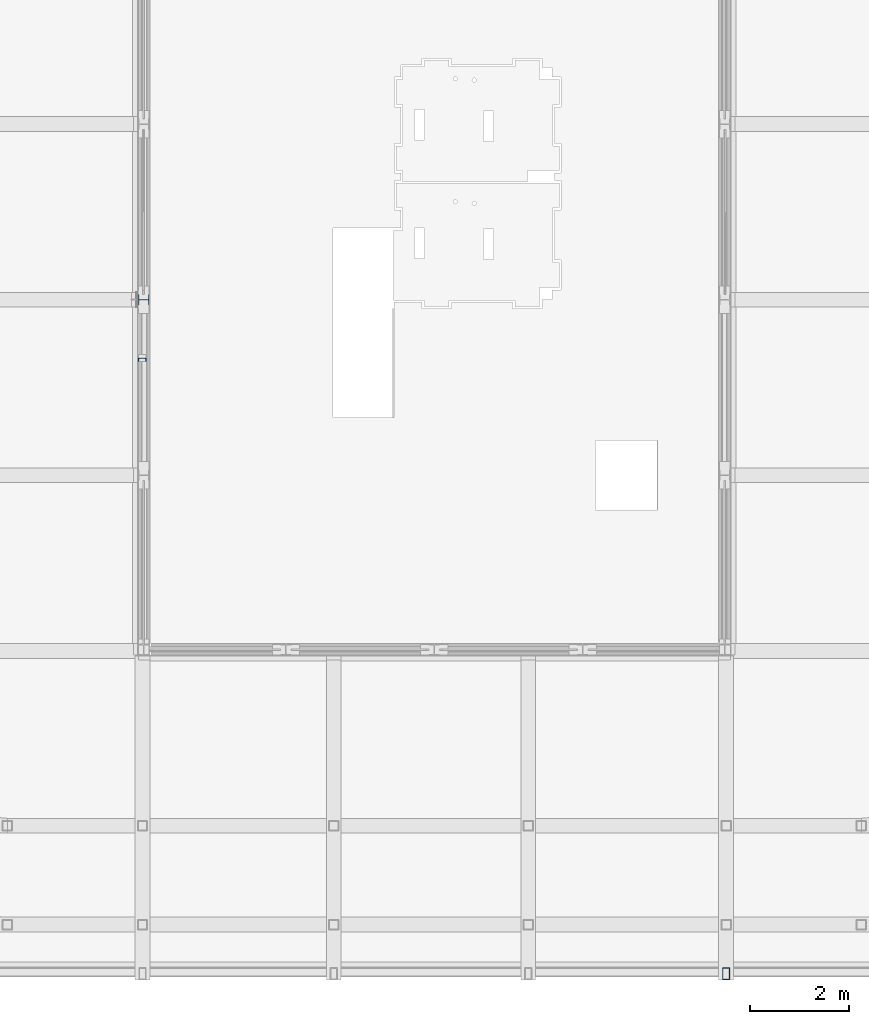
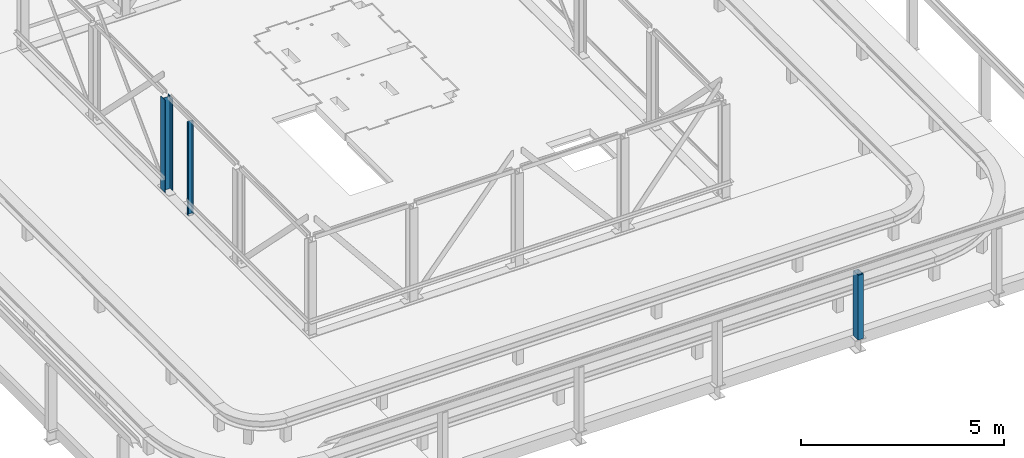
# One storey, part 2 of 27: 3 columns.
"""IFC2X3 building model written with IfcOpenShell, lengths in millimetres."""

import ifcopenshell
import ifcopenshell.guid

model = None  # the IFC model being written
_history = None  # IfcOwnerHistory: only IFC2X3 demands one
_inside = {}  # id of a spatial element -> (the spatial element, [elements in it])
_under = {}  # id of a project, library or spatial element -> (it, [spatial elements below it])
_declared = {}  # id of a project -> (the project, [libraries it declares])
_typed = {}  # id of a type object -> (the type object, [elements of that type])
_made_of = {}  # id of a material, layer set ... -> (it, [elements and type objects made of it])


def new_model(schema):
    """Start an empty IFC model of exactly this schema.

    Asked for "IFC4X3", IfcOpenShell would pick the latest addendum, in which some entities
    have other attributes; the version numbers below select the first issue.
    IFC2X3 requires an IfcOwnerHistory on every rooted entity: one is made here for all.
    """
    global model, _history
    if schema == "IFC4X3":
        model = ifcopenshell.file(schema_version=(4, 3, 0, 0))
    else:
        model = ifcopenshell.file(schema=schema)
    _inside.clear()
    _under.clear()
    _declared.clear()
    _typed.clear()
    _made_of.clear()
    _history = None
    if model.schema == "IFC2X3":
        org = make("IfcOrganization", Name="unknown")
        user = make(
            "IfcPersonAndOrganization",
            ThePerson=make("IfcPerson", FamilyName="unknown"),
            TheOrganization=org,
        )
        app = make(
            "IfcApplication",
            ApplicationDeveloper=org,
            Version="unknown",
            ApplicationFullName="unknown",
            ApplicationIdentifier="unknown",
        )
        _history = make(
            "IfcOwnerHistory",
            OwningUser=user,
            OwningApplication=app,
            ChangeAction="ADDED",
            CreationDate=0,
        )
    return model


def make(cls, **values):
    """One entity of the class cls with the attributes given. An attribute that is None is left unset."""
    return model.create_entity(
        cls, **{name: value for name, value in values.items() if value is not None}
    )


def entity(cls, *values):
    """Any entity or typed value of the class cls, its attributes in the order of the schema. None: left unset."""
    e = model.create_entity(cls)
    for i, value in enumerate(values):
        if value is not None:
            e[i] = value
    return e


def rooted(cls, **values):
    """An entity with a GlobalId (a new one), such as an element, a storey or a relation."""
    return make(cls, GlobalId=ifcopenshell.guid.new(), OwnerHistory=_history, **values)


def si_unit(unit_type, name, prefix=None):
    """IfcSIUnit, for example si_unit("LENGTHUNIT", "METRE", prefix="MILLI")."""
    return make("IfcSIUnit", UnitType=unit_type, Prefix=prefix, Name=name)


def converted_unit(unit_type, name, factor, base, dimensions=None, offset=None):
    """IfcConversionBasedUnit, such as the inch: factor (a typed value) times the base unit."""
    return make(
        "IfcConversionBasedUnit"
        if offset is None
        else "IfcConversionBasedUnitWithOffset",
        ConversionOffset=offset,
        Dimensions=None
        if dimensions is None
        else entity("IfcDimensionalExponents", *dimensions),
        UnitType=unit_type,
        Name=name,
        ConversionFactor=make(
            "IfcMeasureWithUnit", ValueComponent=factor, UnitComponent=base
        ),
    )


def derived_unit(unit_type, elements):
    """IfcDerivedUnit: a product of units, each with its exponent."""
    return make(
        "IfcDerivedUnit",
        Elements=[
            make("IfcDerivedUnitElement", Unit=unit, Exponent=power)
            for unit, power in elements
        ],
        UnitType=unit_type,
    )


def assignment(units):
    """IfcUnitAssignment: the units of a project."""
    return None if units is None else make("IfcUnitAssignment", Units=units)


def point(xyz):
    """IfcCartesianPoint."""
    return None if xyz is None else make("IfcCartesianPoint", Coordinates=xyz)


def direction(xyz):
    """IfcDirection."""
    return None if xyz is None else make("IfcDirection", DirectionRatios=xyz)


def frame(location, z_axis=None, x_axis=None):
    """IfcAxis2Placement3D, a coordinate frame: its origin and axes. An axis left out is left unset."""
    return make(
        "IfcAxis2Placement3D",
        Location=point(location),
        Axis=direction(z_axis),
        RefDirection=direction(x_axis),
    )


def frame_2d(location, x_axis=None):
    """IfcAxis2Placement2D, a coordinate frame in the plane: its origin and x axis."""
    return make(
        "IfcAxis2Placement2D", Location=point(location), RefDirection=direction(x_axis)
    )


def origin():
    """The frame at (0, 0, 0) with its axes left unset."""
    return frame((0.0, 0.0, 0.0))


def place(relative_to, where):
    """IfcLocalPlacement: puts the frame where relative to a parent placement (None: the world)."""
    return make(
        "IfcLocalPlacement", PlacementRelTo=relative_to, RelativePlacement=where
    )


def context(
    kind, dimensions, precision=None, world=None, true_north=None, identifier=None
):
    """IfcGeometricRepresentationContext, for example the 3D "Model" context."""
    return make(
        "IfcGeometricRepresentationContext",
        ContextIdentifier=identifier,
        ContextType=kind,
        CoordinateSpaceDimension=dimensions,
        Precision=precision,
        WorldCoordinateSystem=world,
        TrueNorth=true_north,
    )


def subcontext(parent, identifier, kind, view, scale=None):
    """IfcGeometricRepresentationSubContext, for example "Body" below "Model"."""
    return make(
        "IfcGeometricRepresentationSubContext",
        ContextIdentifier=identifier,
        ContextType=kind,
        ParentContext=parent,
        TargetScale=scale,
        TargetView=view,
    )


def project(units=None, contexts=None):
    """IfcProject with its units and contexts."""
    return rooted(
        "IfcProject",
        Name="project",
        RepresentationContexts=contexts,
        UnitsInContext=assignment(units),
    )


def spatial(cls, under=None, at=None, **own):
    """A site, building, storey or space (cls), placed at a placement, below another one or the project."""
    s = rooted(cls, ObjectPlacement=at, **own)
    if under is not None:
        _under.setdefault(under.id(), (under, []))[1].append(s)
    return s


def polyline(points):
    """IfcPolyline through the points."""
    return make("IfcPolyline", Points=[point(p) for p in points])


def circle_curve(where, radius):
    """IfcCircle in the frame where."""
    return make("IfcCircle", Position=where, Radius=radius)


def parameter(value):
    """IfcParameterValue: where a trimmed curve begins or ends, as a parameter of its basis curve."""
    return model.create_entity("IfcParameterValue", value)


def trimmed(basis, trim1, trim2, sense, master):
    """IfcTrimmedCurve: the piece of a basis curve between two trims."""
    return make(
        "IfcTrimmedCurve",
        BasisCurve=basis,
        Trim1=trim1,
        Trim2=trim2,
        SenseAgreement=sense,
        MasterRepresentation=master,
    )


def segment(curve, same_sense, transition):
    """IfcCompositeCurveSegment."""
    return make(
        "IfcCompositeCurveSegment",
        Transition=transition,
        SameSense=same_sense,
        ParentCurve=curve,
    )


def composite_curve(segments, self_intersect=None):
    """IfcCompositeCurve: segments joined end to end."""
    return make("IfcCompositeCurve", Segments=segments, SelfIntersect=self_intersect)


def profile(cls, at=None, kind="AREA", **sizes):
    """A parametric profile (cls). Its sizes go by their IFC names, for example OverallWidth=200.0."""
    return make(cls, ProfileType=kind, Position=at, **sizes)


def i_section(**sizes):
    """IfcIShapeProfileDef."""
    return profile("IfcIShapeProfileDef", **sizes)


def outline(outer, holes=None, kind="AREA"):
    """IfcArbitraryClosedProfileDef: a profile drawn as a closed curve; with holes, ...WithVoids."""
    if holes is None:
        return make("IfcArbitraryClosedProfileDef", ProfileType=kind, OuterCurve=outer)
    return make(
        "IfcArbitraryProfileDefWithVoids",
        ProfileType=kind,
        OuterCurve=outer,
        InnerCurves=holes,
    )


def extrude(swept, where, along, depth):
    """IfcExtrudedAreaSolid: the profile swept, set in the frame where, extruded along a direction by depth."""
    return make(
        "IfcExtrudedAreaSolid",
        SweptArea=swept,
        Position=where,
        ExtrudedDirection=direction(along),
        Depth=depth,
    )


def shape(context_of_items, identifier, shape_type, items):
    """IfcShapeRepresentation: the items that make up one representation, for example the "Body"."""
    return make(
        "IfcShapeRepresentation",
        ContextOfItems=context_of_items,
        RepresentationIdentifier=identifier,
        RepresentationType=shape_type,
        Items=items,
    )


def source(mapping_origin, context_of_items, identifier, shape_type, items):
    """IfcRepresentationMap: a shape defined once, which mapped items show again and again."""
    return make(
        "IfcRepresentationMap",
        MappingOrigin=mapping_origin,
        MappedRepresentation=shape(context_of_items, identifier, shape_type, items),
    )


def transform(
    local_origin,
    x_axis=None,
    y_axis=None,
    z_axis=None,
    scale=None,
    scale2=None,
    scale3=None,
    uniform=True,
):
    """IfcCartesianTransformationOperator3D, or its non-uniform kind. x_axis, y_axis, z_axis: its Axis1, 2, 3."""
    if uniform:
        return make(
            "IfcCartesianTransformationOperator3D",
            Axis1=direction(x_axis),
            Axis2=direction(y_axis),
            LocalOrigin=point(local_origin),
            Scale=scale,
            Axis3=direction(z_axis),
        )
    return make(
        "IfcCartesianTransformationOperator3DnonUniform",
        Axis1=direction(x_axis),
        Axis2=direction(y_axis),
        LocalOrigin=point(local_origin),
        Scale=scale,
        Axis3=direction(z_axis),
        Scale2=scale2,
        Scale3=scale3,
    )


def mapped(mapping_source, mapping_target):
    """IfcMappedItem: shows the shape of a source again, moved by a transform."""
    return make(
        "IfcMappedItem", MappingSource=mapping_source, MappingTarget=mapping_target
    )


def material(Name=None, Category=None):
    """IfcMaterial."""
    return make("IfcMaterial", Name=Name, Category=Category)


def made_of(thing, what):
    """Note that an element or type object is made of a material, layer set ...; save() writes the relation."""
    if what is not None:
        _made_of.setdefault(what.id(), (what, []))[1].append(thing)
    return thing


def type_object(cls, material=None, **own):
    """A type object (cls), such as IfcWallType, which elements share."""
    return made_of(rooted(cls, **own), material)


def type_shapes(of_type, sources):
    """Give a type object the sources (RepresentationMaps) that its elements show as mapped items."""
    of_type.RepresentationMaps = sources


def element(
    cls,
    number,
    at=None,
    inside=None,
    cuts=None,
    type_object=None,
    material=None,
    context=None,
    identifier="Body",
    shape_type=None,
    held_by="IfcProductDefinitionShape",
    body=None,
    shapes=None,
    **own,
):
    """One element of the class cls, such as IfcWall. Its Tag is "e" and its number.

    at: its placement. inside: the storey or other place that contains it. cuts: it is an
    opening in that element (IfcRelVoidsElement). A single representation is given by context,
    identifier, shape_type and body (its items); several are given by shapes. held_by: the class
    of the entity that holds the representations. save() writes the other relations.
    """
    e = rooted(cls, Tag="e%d" % number, ObjectPlacement=at, **own)
    if body is not None:
        shapes = [shape(context, identifier, shape_type, body)]
    if shapes is not None:
        e.Representation = make(held_by, Representations=shapes)
    if inside is not None:
        _inside.setdefault(inside.id(), (inside, []))[1].append(e)
    if cuts is not None:
        rooted(
            "IfcRelVoidsElement", RelatingBuildingElement=cuts, RelatedOpeningElement=e
        )
    if type_object is not None:
        _typed.setdefault(type_object.id(), (type_object, []))[1].append(e)
    return made_of(e, material)


def aggregate(whole, parts):
    """IfcRelAggregates: a whole, such as a stair, and the parts it consists of."""
    return rooted("IfcRelAggregates", RelatingObject=whole, RelatedObjects=parts)


def save(model, path):
    """Write the relations noted so far, then the file.

    IfcRelAggregates (storeys below a building ...), IfcRelContainedInSpatialStructure (elements
    in a storey), IfcRelDefinesByType, IfcRelAssociatesMaterial and IfcRelDeclares: one each for
    every whole, place, type object, material and project.
    """
    for whole, parts in _under.values():
        aggregate(whole, parts)
    for where, things in _inside.values():
        rooted(
            "IfcRelContainedInSpatialStructure",
            RelatedElements=things,
            RelatingStructure=where,
        )
    for kind, things in _typed.values():
        rooted("IfcRelDefinesByType", RelatedObjects=things, RelatingType=kind)
    for what, things in _made_of.values():
        rooted("IfcRelAssociatesMaterial", RelatedObjects=things, RelatingMaterial=what)
    for by, libraries in _declared.values():
        rooted("IfcRelDeclares", RelatingContext=by, RelatedDefinitions=libraries)
    model.write(path)


model = new_model("IFC2X3")

# Units and contexts
model_context = context("Model", 3, precision=0.01, world=origin(), true_north=direction((6.12303176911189e-17, 1.0)))
body_context = subcontext(model_context, "Body", "Model", "MODEL_VIEW")
ifc_project = project(units=[si_unit("LENGTHUNIT", "METRE", prefix="MILLI"), si_unit("AREAUNIT", "SQUARE_METRE"), si_unit("VOLUMEUNIT", "CUBIC_METRE"), converted_unit("PLANEANGLEUNIT", "DEGREE", entity("IfcRatioMeasure", 0.0174532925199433), si_unit("PLANEANGLEUNIT", "RADIAN"), dimensions=[0, 0, 0, 0, 0, 0, 0]), si_unit("MASSUNIT", "GRAM", prefix="KILO"), derived_unit("MASSDENSITYUNIT", [(si_unit("MASSUNIT", "GRAM", prefix="KILO"), 1), (si_unit("LENGTHUNIT", "METRE"), -3)]), si_unit("TIMEUNIT", "SECOND"), si_unit("FREQUENCYUNIT", "HERTZ"), si_unit("THERMODYNAMICTEMPERATUREUNIT", "DEGREE_CELSIUS"), derived_unit("THERMALTRANSMITTANCEUNIT", [(si_unit("MASSUNIT", "GRAM", prefix="KILO"), 1), (si_unit("THERMODYNAMICTEMPERATUREUNIT", "KELVIN"), -1), (si_unit("TIMEUNIT", "SECOND"), -3)]), derived_unit("VOLUMETRICFLOWRATEUNIT", [(si_unit("LENGTHUNIT", "METRE"), 3), (si_unit("TIMEUNIT", "SECOND"), -1)]), si_unit("ELECTRICCURRENTUNIT", "AMPERE"), si_unit("ELECTRICVOLTAGEUNIT", "VOLT"), si_unit("POWERUNIT", "WATT"), si_unit("FORCEUNIT", "NEWTON", prefix="KILO"), si_unit("ILLUMINANCEUNIT", "LUX"), si_unit("LUMINOUSFLUXUNIT", "LUMEN"), si_unit("LUMINOUSINTENSITYUNIT", "CANDELA"), derived_unit("USERDEFINED", [(si_unit("MASSUNIT", "GRAM", prefix="KILO"), -1), (si_unit("LENGTHUNIT", "METRE"), -2), (si_unit("TIMEUNIT", "SECOND"), 3), (si_unit("LUMINOUSFLUXUNIT", "LUMEN"), 1)]), derived_unit("LINEARVELOCITYUNIT", [(si_unit("LENGTHUNIT", "METRE"), 1), (si_unit("TIMEUNIT", "SECOND"), -1)]), si_unit("PRESSUREUNIT", "PASCAL"), derived_unit("USERDEFINED", [(si_unit("LENGTHUNIT", "METRE"), -2), (si_unit("MASSUNIT", "GRAM", prefix="KILO"), 1), (si_unit("TIMEUNIT", "SECOND"), -2)])], contexts=[model_context])

# Site, building, storey
site_placement = place(None, origin())
site = spatial("IfcSite", under=ifc_project, at=site_placement, Name="Default", CompositionType="ELEMENT")
building_placement = place(site_placement, origin())
building = spatial("IfcBuilding", under=site, at=building_placement, Name="niet gebruiken", CompositionType="ELEMENT")
storey_placement = place(building_placement, frame((0.0, 0.0, 187640.0)))
storey = spatial("IfcBuildingStorey", under=building, at=storey_placement, Name="59 negenenvijftigste verdieping", CompositionType="ELEMENT", Elevation=187640.0)

# Columns
ifc_material = material(Name="NLRS_h2_staal")
column_type_1 = type_object("IfcColumnType", Name="kolom HEB 220", PredefinedType="COLUMN", material=ifc_material)
shared_shape_1 = source(origin(), body_context, "Body", "SweptSolid", [
    extrude(i_section(OverallWidth=220.0, OverallDepth=219.999999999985, WebThickness=9.50000000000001, FlangeThickness=15.9999999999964, FilletRadius=17.9999999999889, at=frame_2d((2.16715534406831e-12, 0.0), x_axis=(1.0, 0.0))), frame((135875.0, 17500.0, 187635.0), z_axis=(0.0, 0.0, 1.0), x_axis=(0.0, -1.0, 0.0)), (0.0, 0.0, 1.0), 2775.00000000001),
])
type_shapes(column_type_1, [shared_shape_1])
column_1_placement = place(storey_placement, frame((0.0, 0.0, -187640.0)))
element("IfcColumn", 1, at=column_1_placement, inside=storey, type_object=column_type_1, material=ifc_material, Name="NLRS_28.11_SCO_TLB_stalen kolom HEB_gen:kolom HEB 220", ObjectType="kolom HEB 220", context=body_context, shape_type="MappedRepresentation", body=[
    mapped(shared_shape_1, transform((0.0, 0.0, 0.0), scale=1.0)),
])
column_type_2 = type_object("IfcColumnType", Name="kolom buisprofiel rechthoekig RHSH_250x150x16", PredefinedType="COLUMN", material=ifc_material)
shared_shape_2 = source(origin(), body_context, "Body", "SweptSolid", [
    extrude(outline(polyline([(-125.0, -75.0), (125.0, -75.0), (125.0, 75.0), (-125.0, 75.0), (-125.0, -75.0)]), holes=[composite_curve([segment(trimmed(circle_curve(frame_2d((-96.500000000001, -46.4999999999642), x_axis=(0.0, 1.0)), 12.5), [parameter(90.0)], [parameter(180.0)], True, "PARAMETER"), False, "CONTINUOUS"), segment(polyline([(-109.0, -46.4999999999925), (-109.0, 46.5000000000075)]), True, "CONTINUOUS"), segment(trimmed(circle_curve(frame_2d((-96.5, 46.5000000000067), x_axis=(0.0, 1.0)), 12.5), [parameter(360.0)], [parameter(89.9999999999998)], True, "PARAMETER"), False, "CONTINUOUS"), segment(polyline([(-96.5, 59.0), (96.5, 59.0)]), True, "CONTINUOUS"), segment(trimmed(circle_curve(frame_2d((96.5, 46.4999999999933), x_axis=(0.0, 1.0)), 12.5), [parameter(270.0)], [parameter(360.0)], True, "PARAMETER"), False, "CONTINUOUS"), segment(polyline([(109.0, 46.4999999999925), (109.0, -46.4999999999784)]), True, "CONTINUOUS"), segment(trimmed(circle_curve(frame_2d((96.499999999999, -46.4999999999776), x_axis=(0.0, 1.0)), 12.5), [parameter(180.0)], [parameter(270.0)], True, "PARAMETER"), False, "CONTINUOUS"), segment(polyline([(96.4999999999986, -59.0), (-96.5000000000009, -59.0)]), True, "CONTINUOUS")], self_intersect=False)]), frame((147650.0, 3870.0, 187350.0), z_axis=(0.0, 0.0, 1.0), x_axis=(0.0, 1.0, 0.0)), (0.0, 0.0, 1.0), 1940.00000000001),
])
type_shapes(column_type_2, [shared_shape_2])
column_2_placement = place(storey_placement, frame((0.0, 0.0, -187640.0)))
element("IfcColumn", 2, at=column_2_placement, inside=storey, type_object=column_type_2, material=ifc_material, Name="NLRS_28.11_SCO_TLB_stalen kolom buisprofiel rechthoekig_gen:kolom buisprofiel rechthoekig RHSH_250x150x16", ObjectType="kolom buisprofiel rechthoekig RHSH_250x150x16", context=body_context, shape_type="MappedRepresentation", body=[
    mapped(shared_shape_2, transform((0.0, 0.0, 0.0), scale=1.0)),
])
column_type_3 = type_object("IfcColumnType", Name="kolom UNP 160", PredefinedType="COLUMN", material=ifc_material)
shared_shape_3 = source(origin(), body_context, "Body", "SweptSolid", [
    extrude(outline(composite_curve([segment(polyline([(-35.833333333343, -79.8903676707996), (29.1666666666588, -79.8903676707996)]), True, "CONTINUOUS"), segment(polyline([(29.1666666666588, -79.8903676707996), (29.1666666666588, -75.3424720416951)]), True, "CONTINUOUS"), segment(trimmed(circle_curve(frame_2d((23.6666666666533, -75.3424720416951), x_axis=(1.0, 0.0)), 5.50000000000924), [parameter(0.0)], [parameter(89.9999999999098)], True, "PARAMETER"), True, "CONTINUOUS"), segment(polyline([(23.6666666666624, -69.8424720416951), (-17.8333333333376, -68.0811659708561)]), True, "CONTINUOUS"), segment(trimmed(circle_curve(frame_2d((-17.8333333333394, -57.5811659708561), x_axis=(0.0, -1.0)), 10.5000000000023), [parameter(270.0)], [parameter(0.0)], True, "PARAMETER"), False, "CONTINUOUS"), segment(polyline([(-28.3333333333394, -57.5811659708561), (-28.3333333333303, 57.1586105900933)]), True, "CONTINUOUS"), segment(trimmed(circle_curve(frame_2d((-17.8333333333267, 57.1586105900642), x_axis=(-1.0, 0.0)), 10.5000000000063), [parameter(270.000000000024)], [parameter(0.0)], True, "PARAMETER"), False, "CONTINUOUS"), segment(polyline([(-17.8333333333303, 67.6586105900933), (23.6666666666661, 70.0457627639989)]), True, "CONTINUOUS"), segment(trimmed(circle_curve(frame_2d((23.6666666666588, 75.5457627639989), x_axis=(0.0, -1.0)), 5.50000000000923), [parameter(0.0)], [parameter(89.9999999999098)], True, "PARAMETER"), True, "CONTINUOUS"), segment(polyline([(29.1666666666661, 75.5457627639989), (29.1666666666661, 80.1096323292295)]), True, "CONTINUOUS"), segment(polyline([(29.1666666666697, 80.1096323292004), (-35.8333333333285, 80.1096323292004)]), True, "CONTINUOUS"), segment(polyline([(-35.8333333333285, 80.1096323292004), (-35.8333333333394, -79.8903676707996)]), True, "CONTINUOUS")], self_intersect=False)), frame((135844.890367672, 16284.9666666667, 187630.0), z_axis=(0.0, 0.0, 1.0), x_axis=(0.0, -1.0, 0.0)), (0.0, 0.0, 1.0), 2795.00000000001),
])
type_shapes(column_type_3, [shared_shape_3])
column_3_placement = place(storey_placement, frame((0.0, 0.0, -187640.0)))
element("IfcColumn", 3, at=column_3_placement, inside=storey, type_object=column_type_3, material=ifc_material, Name="NLRS_28.11_SCO_TLB_stalen kolom UNP_gen:kolom UNP 160", ObjectType="kolom UNP 160", context=body_context, shape_type="MappedRepresentation", body=[
    mapped(shared_shape_3, transform((0.0, 0.0, 0.0), scale=1.0)),
])

save(model, "model.ifc")
